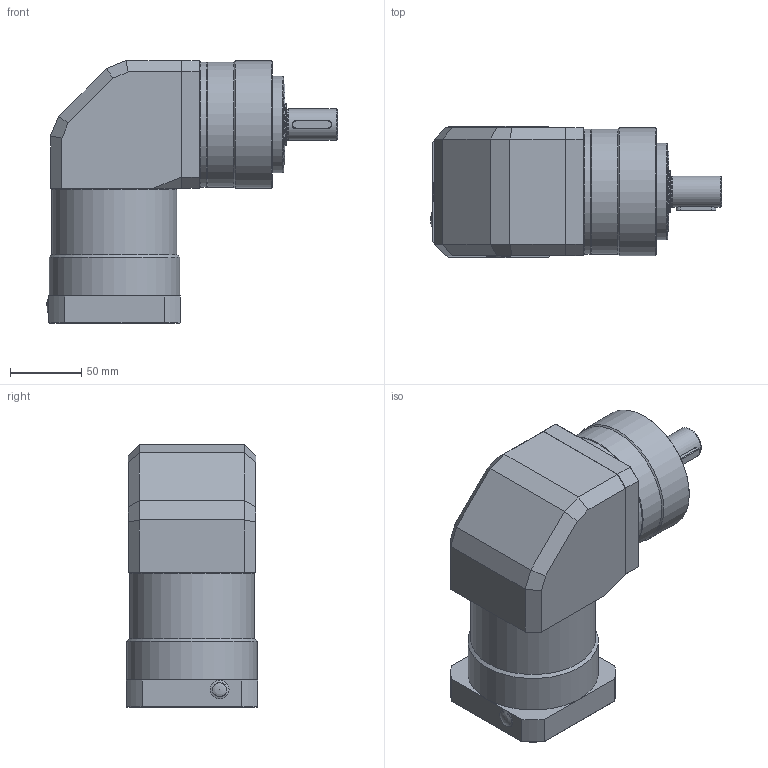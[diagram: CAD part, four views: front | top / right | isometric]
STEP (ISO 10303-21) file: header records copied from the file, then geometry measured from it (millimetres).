
FILE_DESCRIPTION(/* description */ (''),/* implementation_level */ '2;1');
FILE_NAME(/* name */ 'ASM00020672_A0_B9067.0035.100-200-高精密行星直角减速机-Ф19_45-Ф70_6-Ф90_M6-_90-GER090-35.stp',/* time_stamp */ '2025-03-14T11:13:40+08:00',/* author */ (''),/* organization */ (''),/* preprocessor_version */ 'ST-DEVELOPER v18.102',/* originating_system */ 'SIEMENS PLM Software NX 2027',/* authorisation */ '');
FILE_SCHEMA (('AUTOMOTIVE_DESIGN { 1 0 10303 214 3 1 1 1 }'));
Length unit declared in the file: millimetre
Products named in the file (1): A0_objects
Bounding box: 204.85 x 92.5 x 185 mm (x, y, z)
Volume: 1679078.1 mm3; surface area: 121596.1 mm2
Topology: 1 solids, 2 shells, 515 faces, 1166 edges, 684 vertices
Faces by surface type: plane 285, cone 123, cylinder 77, torus 25, bspline 4, sphere 1
Full cylindrical faces by diameter (mm): 5 x8, 5.795 x1, 6.6 x1, 7 x1, 7.9 x1, 8 x1, 8.4 x1, 8.5 x6, 9 x6, 9.5 x1, 10 x5, 10.2 x1, 11 x4, 19 x1, 19.5 x1, 20 x1, 21.8 x1, 22 x1, 30 x1, 40 x1, 47 x1, 54.999 x1, 55 x1, 60 x1, 65 x1, 68 x1, 88 x3, 90 x1, 92 x1
Entity records: 13399 total; most frequent: CARTESIAN_POINT 2819, DIRECTION 2239, ORIENTED_EDGE 1944, EDGE_CURVE 972, AXIS2_PLACEMENT_3D 882, EDGE_LOOP 680, VERTEX_POINT 632, ADVANCED_FACE 514
